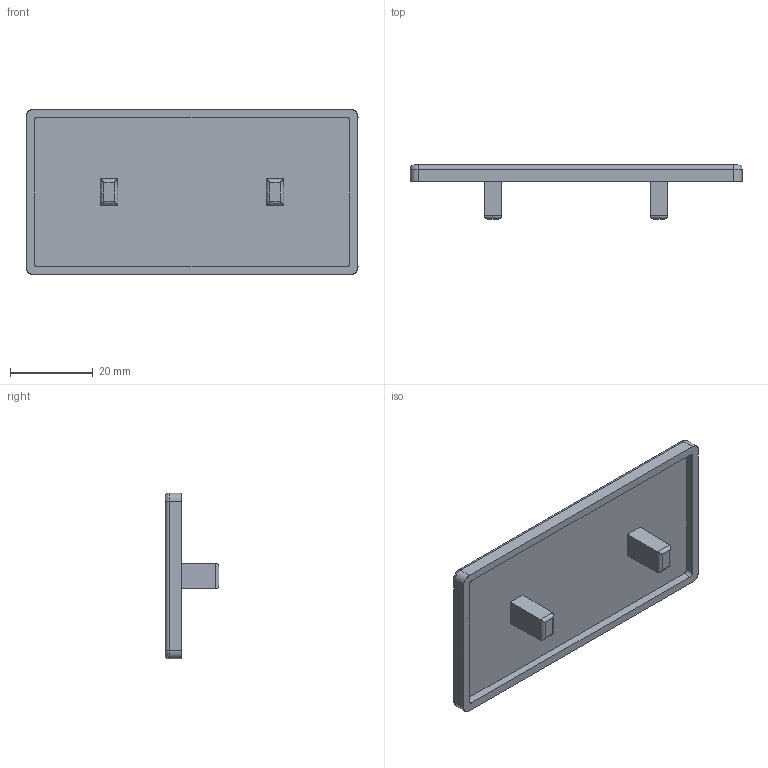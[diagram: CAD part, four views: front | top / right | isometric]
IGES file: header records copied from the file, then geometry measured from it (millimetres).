
Start section: SolidWorks IGES file using analytic representation for surfaces
Global section: file name: C:\Users\admin\Desktop\IGES\J4C8.igs; native system: SolidWorks 2014; preprocessor: SolidWorks 2014; author: admin_pc; date: 170524.165644; units: millimetre
Bounding box: 80 x 13 x 40 mm (x, y, z)
Surface area: 8122.2 mm2 (no closed solid volume)
Topology: 0 solids, 0 shells, 45 faces, 352 edges, 352 vertices
Faces by surface type: bspline 25, revolution 20
